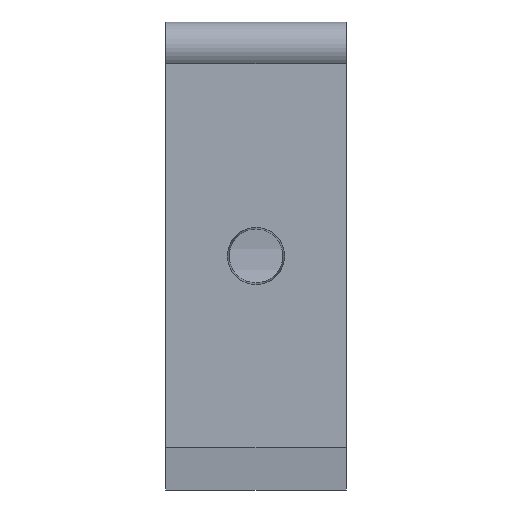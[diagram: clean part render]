
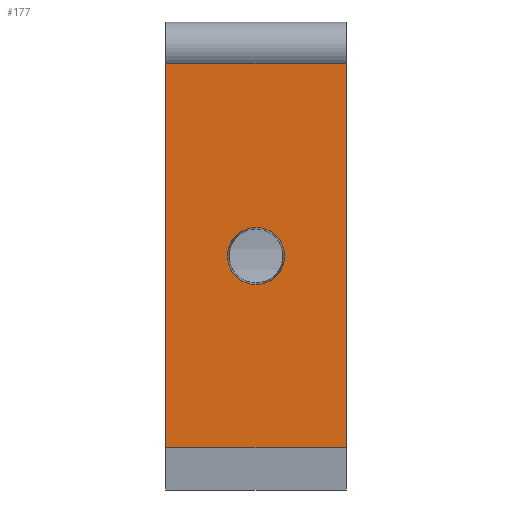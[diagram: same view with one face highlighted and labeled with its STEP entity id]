
A CAD part, front view. The second image highlights one B-rep face of the part: STEP entity #177.
In plain terms, the highlighted planar face has unit normal (0, -1, 0).
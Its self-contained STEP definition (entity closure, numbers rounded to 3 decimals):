
#177=ADVANCED_FACE('',(#1048,#1050),#1052,.T.);
#1048=FACE_BOUND('',#1049,.T.);
#1049=EDGE_LOOP('',(#2271,#2272,#2273,#2274));
#1050=FACE_BOUND('',#1051,.T.);
#1051=EDGE_LOOP('',(#2275));
#1052=PLANE('',#1053);
#1053=AXIS2_PLACEMENT_3D('',#1054,#1055,#1056);
#1054=CARTESIAN_POINT('',(-7.5,-19.5,16.));
#1055=DIRECTION('',(0.,-1.,0.));
#1056=DIRECTION('',(0.,0.,-1.));
#2271=ORIENTED_EDGE('',*,*,#2875,.T.);
#2272=ORIENTED_EDGE('',*,*,#2876,.T.);
#2273=ORIENTED_EDGE('',*,*,#2833,.F.);
#2274=ORIENTED_EDGE('',*,*,#2874,.F.);
#2275=ORIENTED_EDGE('',*,*,#2877,.T.);
#2833=EDGE_CURVE('',#3518,#3520,#3521,.T.);
#2874=EDGE_CURVE('',#3595,#3518,#3597,.T.);
#2875=EDGE_CURVE('',#3595,#3598,#3599,.T.);
#2876=EDGE_CURVE('',#3598,#3520,#3600,.T.);
#2877=EDGE_CURVE('',#3601,#3601,#3602,.T.);
#3518=VERTEX_POINT('',#4964);
#3520=VERTEX_POINT('',#4969);
#3521=LINE('',#4970,#4971);
#3595=VERTEX_POINT('',#5146);
#3597=LINE('',#5151,#5152);
#3598=VERTEX_POINT('',#5154);
#3599=LINE('',#5155,#5156);
#3600=LINE('',#5158,#5159);
#3601=VERTEX_POINT('',#5161);
#3602=CIRCLE('',#5162,2.381);
#4964=CARTESIAN_POINT('',(7.5,-19.5,16.));
#4969=CARTESIAN_POINT('',(7.5,-19.5,-16.));
#4970=CARTESIAN_POINT('',(7.5,-19.5,16.));
#4971=VECTOR('',#4972,1.);
#4972=DIRECTION('',(0.,0.,-1.));
#5146=CARTESIAN_POINT('',(-7.5,-19.5,16.));
#5151=CARTESIAN_POINT('',(-7.5,-19.5,16.));
#5152=VECTOR('',#5153,1.);
#5153=DIRECTION('',(1.,0.,0.));
#5154=CARTESIAN_POINT('',(-7.5,-19.5,-16.));
#5155=CARTESIAN_POINT('',(-7.5,-19.5,16.));
#5156=VECTOR('',#5157,1.);
#5157=DIRECTION('',(0.,0.,-1.));
#5158=CARTESIAN_POINT('',(-7.5,-19.5,-16.));
#5159=VECTOR('',#5160,1.);
#5160=DIRECTION('',(1.,0.,0.));
#5161=CARTESIAN_POINT('',(0.,-19.5,-2.381));
#5162=AXIS2_PLACEMENT_3D('',#5163,#5164,#5165);
#5163=CARTESIAN_POINT('',(0.,-19.5,0.));
#5164=DIRECTION('',(0.,1.,0.));
#5165=DIRECTION('',(0.,0.,-1.));
